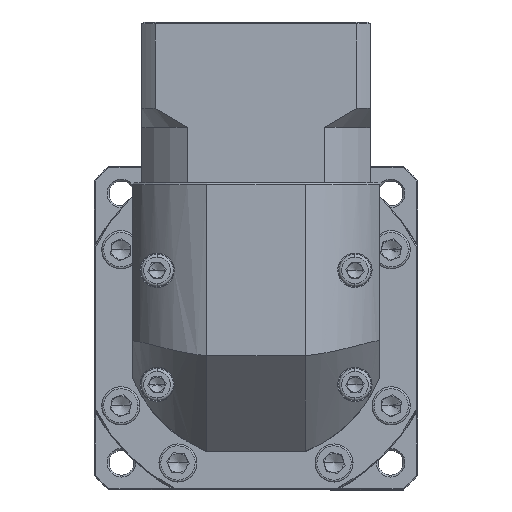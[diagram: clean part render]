
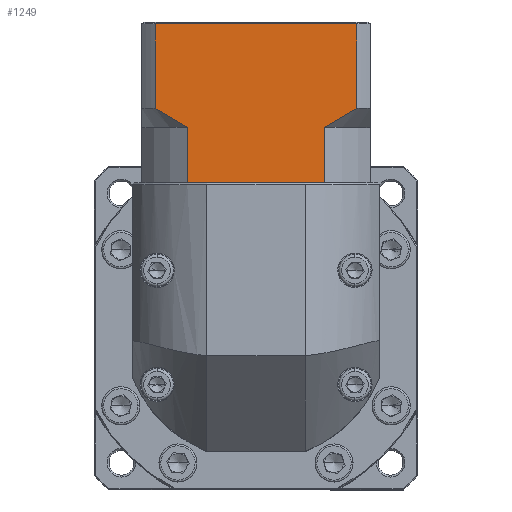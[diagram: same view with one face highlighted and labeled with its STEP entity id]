
A CAD part, top view. The second image highlights one B-rep face of the part: STEP entity #1249.
In plain terms, the highlighted planar face has unit normal (0, 0, 1).
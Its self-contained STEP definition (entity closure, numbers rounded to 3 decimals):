
#1249 = ADVANCED_FACE ( 'NONE', ( #59003 ), #15943, .F. ) ;
#1756 = ORIENTED_EDGE ( 'NONE', *, *, #132304, .F. ) ;
#1963 = EDGE_CURVE ( 'NONE', #125004, #120996, #95087, .T. ) ;
#2660 = DIRECTION ( 'NONE',  ( 0., 1., 0. ) ) ;
#6851 = DIRECTION ( 'NONE',  ( 1., 0., 0. ) ) ;
#7829 = VECTOR ( 'NONE', #6851, 1000. ) ;
#8395 = CARTESIAN_POINT ( 'NONE',  ( -106.483, 82.699, 55.04 ) ) ;
#8540 = CARTESIAN_POINT ( 'NONE',  ( -54.928, 105.798, 55.04 ) ) ;
#9864 = CARTESIAN_POINT ( 'NONE',  ( -111.386, 64.098, 55.04 ) ) ;
#9937 = CARTESIAN_POINT ( 'NONE',  ( -100.866, 79.346, 55.04 ) ) ;
#10645 = DIRECTION ( 'NONE',  ( 0., 1., 0. ) ) ;
#12325 = LINE ( 'NONE', #24561, #99790 ) ;
#15400 = DIRECTION ( 'NONE',  ( 0., 0., -1. ) ) ;
#15526 = CARTESIAN_POINT ( 'NONE',  ( -61.902, 79.349, 55.04 ) ) ;
#15943 = PLANE ( 'NONE',  #86730 ) ;
#18900 = EDGE_CURVE ( 'NONE', #99136, #120996, #83292, .T. ) ;
#20546 = CARTESIAN_POINT ( 'NONE',  ( -102.297, 80.15, 55.04 ) ) ;
#21730 = VERTEX_POINT ( 'NONE', #8540 ) ;
#23265 = VERTEX_POINT ( 'NONE', #143721 ) ;
#24561 = CARTESIAN_POINT ( 'NONE',  ( -63.358, 78.598, 55.04 ) ) ;
#25703 = CARTESIAN_POINT ( 'NONE',  ( -54.928, 83.598, 55.04 ) ) ;
#27151 = CARTESIAN_POINT ( 'NONE',  ( -63.358, 78.598, 55.04 ) ) ;
#29077 = DIRECTION ( 'NONE',  ( 1., 0., 0. ) ) ;
#34471 = LINE ( 'NONE', #152248, #7829 ) ;
#34982 = VERTEX_POINT ( 'NONE', #122381 ) ;
#36331 = VERTEX_POINT ( 'NONE', #72354 ) ;
#38080 = VECTOR ( 'NONE', #10645, 1000. ) ;
#44502 = CARTESIAN_POINT ( 'NONE',  ( -64.349, 64.098, 55.04 ) ) ;
#44634 = CARTESIAN_POINT ( 'NONE',  ( -54.928, 78.598, 55.04 ) ) ;
#45197 = CARTESIAN_POINT ( 'NONE',  ( -63.358, 78.598, 55.04 ) ) ;
#48630 = EDGE_CURVE ( 'NONE', #125004, #34982, #34471, .T. ) ;
#49983 = DIRECTION ( 'NONE',  ( 0., -1., 0. ) ) ;
#52596 = CARTESIAN_POINT ( 'NONE',  ( -56.291, 82.697, 55.04 ) ) ;
#54814 = LINE ( 'NONE', #149573, #138729 ) ;
#55701 = EDGE_CURVE ( 'NONE', #99136, #36331, #80882, .T. ) ;
#56378 = EDGE_CURVE ( 'NONE', #21730, #65592, #120356, .T. ) ;
#56785 = CARTESIAN_POINT ( 'NONE',  ( -99.414, 78.598, 55.04 ) ) ;
#58639 = DIRECTION ( 'NONE',  ( 1., 0., 0. ) ) ;
#58810 = VERTEX_POINT ( 'NONE', #44502 ) ;
#59003 = FACE_OUTER_BOUND ( 'NONE', #113867, .T. ) ;
#59995 = VECTOR ( 'NONE', #110137, 1000. ) ;
#65592 = VERTEX_POINT ( 'NONE', #25703 ) ;
#68740 = ORIENTED_EDGE ( 'NONE', *, *, #81663, .T. ) ;
#69975 = B_SPLINE_CURVE_WITH_KNOTS ( 'NONE', 3,
 ( #27151, #15526, #148205, #75423, #52596, #138173 ),
 .UNSPECIFIED., .F., .F.,
 ( 4, 2, 4 ),
 ( 0.1, 0.104, 0.109 ),
 .UNSPECIFIED. ) ;
#72354 = CARTESIAN_POINT ( 'NONE',  ( -107.843, 105.798, 55.04 ) ) ;
#75423 = CARTESIAN_POINT ( 'NONE',  ( -57.671, 81.823, 55.04 ) ) ;
#75590 = ORIENTED_EDGE ( 'NONE', *, *, #48630, .T. ) ;
#80882 = LINE ( 'NONE', #110664, #59995 ) ;
#81663 = EDGE_CURVE ( 'NONE', #34982, #58810, #121340, .T. ) ;
#82647 = CARTESIAN_POINT ( 'NONE',  ( -107.843, 83.598, 55.04 ) ) ;
#83292 = B_SPLINE_CURVE_WITH_KNOTS ( 'NONE', 3,
 ( #82647, #8395, #93340, #20546, #9937, #131581 ),
 .UNSPECIFIED., .F., .F.,
 ( 4, 2, 4 ),
 ( 0.052, 0.057, 0.062 ),
 .UNSPECIFIED. ) ;
#86730 = AXIS2_PLACEMENT_3D ( 'NONE', #149661, #15400, #2660 ) ;
#91392 = CARTESIAN_POINT ( 'NONE',  ( -107.843, 83.598, 55.04 ) ) ;
#93340 = CARTESIAN_POINT ( 'NONE',  ( -105.105, 81.826, 55.04 ) ) ;
#93495 = VERTEX_POINT ( 'NONE', #45197 ) ;
#95087 = LINE ( 'NONE', #56785, #38080 ) ;
#96741 = ORIENTED_EDGE ( 'NONE', *, *, #18900, .T. ) ;
#99136 = VERTEX_POINT ( 'NONE', #91392 ) ;
#99790 = VECTOR ( 'NONE', #49983, 1000. ) ;
#100510 = ORIENTED_EDGE ( 'NONE', *, *, #1963, .F. ) ;
#101724 = ORIENTED_EDGE ( 'NONE', *, *, #147496, .T. ) ;
#103725 = DIRECTION ( 'NONE',  ( 0., -1., 0. ) ) ;
#107010 = VECTOR ( 'NONE', #120467, 1000. ) ;
#109873 = CARTESIAN_POINT ( 'NONE',  ( -111.386, 105.798, 55.04 ) ) ;
#110137 = DIRECTION ( 'NONE',  ( 0., 1., 0. ) ) ;
#110664 = CARTESIAN_POINT ( 'NONE',  ( -107.843, 78.598, 55.04 ) ) ;
#112812 = VECTOR ( 'NONE', #103725, 1000. ) ;
#113867 = EDGE_LOOP ( 'NONE', ( #152547, #123078, #127368, #96741, #100510, #75590, #68740, #142031, #1756, #101724 ) ) ;
#117546 = VECTOR ( 'NONE', #58639, 1000. ) ;
#119300 = CARTESIAN_POINT ( 'NONE',  ( -99.414, 64.098, 55.04 ) ) ;
#120356 = LINE ( 'NONE', #44634, #112812 ) ;
#120467 = DIRECTION ( 'NONE',  ( -1., 0., 0. ) ) ;
#120996 = VERTEX_POINT ( 'NONE', #126720 ) ;
#121340 = LINE ( 'NONE', #9864, #117546 ) ;
#122381 = CARTESIAN_POINT ( 'NONE',  ( -98.423, 64.098, 55.04 ) ) ;
#122630 = EDGE_CURVE ( 'NONE', #21730, #36331, #139343, .T. ) ;
#123078 = ORIENTED_EDGE ( 'NONE', *, *, #122630, .T. ) ;
#125004 = VERTEX_POINT ( 'NONE', #119300 ) ;
#126720 = CARTESIAN_POINT ( 'NONE',  ( -99.414, 78.598, 55.04 ) ) ;
#127368 = ORIENTED_EDGE ( 'NONE', *, *, #55701, .F. ) ;
#131581 = CARTESIAN_POINT ( 'NONE',  ( -99.414, 78.598, 55.04 ) ) ;
#132304 = EDGE_CURVE ( 'NONE', #93495, #23265, #12325, .T. ) ;
#138173 = CARTESIAN_POINT ( 'NONE',  ( -54.928, 83.598, 55.04 ) ) ;
#138729 = VECTOR ( 'NONE', #29077, 1000. ) ;
#139343 = LINE ( 'NONE', #109873, #107010 ) ;
#140879 = EDGE_CURVE ( 'NONE', #58810, #23265, #54814, .T. ) ;
#142031 = ORIENTED_EDGE ( 'NONE', *, *, #140879, .T. ) ;
#143721 = CARTESIAN_POINT ( 'NONE',  ( -63.358, 64.098, 55.04 ) ) ;
#147496 = EDGE_CURVE ( 'NONE', #93495, #65592, #69975, .T. ) ;
#148205 = CARTESIAN_POINT ( 'NONE',  ( -60.476, 80.149, 55.04 ) ) ;
#149573 = CARTESIAN_POINT ( 'NONE',  ( -111.386, 64.098, 55.04 ) ) ;
#149661 = CARTESIAN_POINT ( 'NONE',  ( -111.386, 106.298, 55.04 ) ) ;
#152248 = CARTESIAN_POINT ( 'NONE',  ( -111.386, 64.098, 55.04 ) ) ;
#152547 = ORIENTED_EDGE ( 'NONE', *, *, #56378, .F. ) ;
